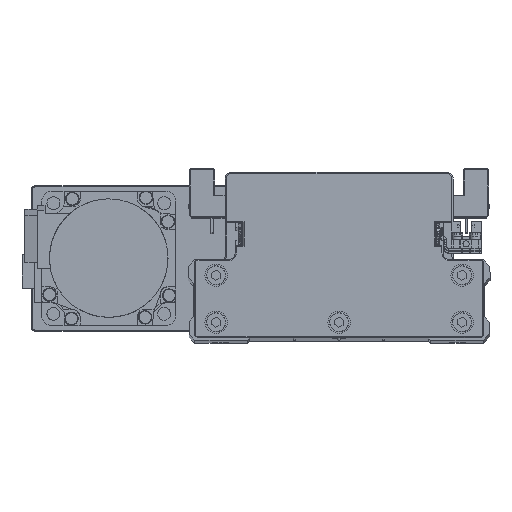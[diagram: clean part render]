
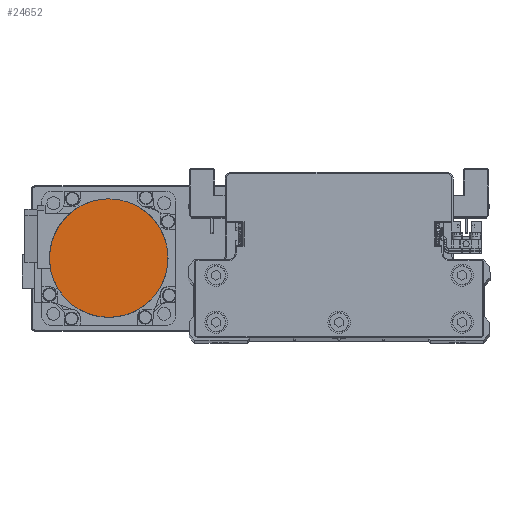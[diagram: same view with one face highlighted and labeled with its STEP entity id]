
A CAD part, top view. The second image highlights one B-rep face of the part: STEP entity #24652.
In plain terms, the highlighted planar face has unit normal (0, 0, 1) as drawn and (0, 0, -1) by its records, which use the part's own axes.
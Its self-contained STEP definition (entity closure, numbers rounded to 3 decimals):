
#22 = CARTESIAN_POINT ( 'NONE',  ( 8.539, -25.147, -109.7 ) ) ;
#34 = EDGE_CURVE ( 'NONE', #26519, #19195, #30029, .T. ) ;
#216 = CARTESIAN_POINT ( 'NONE',  ( 26.5, 0., -109.7 ) ) ;
#1491 = CARTESIAN_POINT ( 'NONE',  ( 17.512, 19.965, -109.7 ) ) ;
#1570 = FACE_OUTER_BOUND ( 'NONE', #2157, .T. ) ;
#1697 = CARTESIAN_POINT ( 'NONE',  ( -13.28, 22.998, -109.7 ) ) ;
#2157 = EDGE_LOOP ( 'NONE', ( #7623, #12205 ) ) ;
#2898 = CARTESIAN_POINT ( 'NONE',  ( -25.147, -8.539, -109.7 ) ) ;
#3110 = CARTESIAN_POINT ( 'NONE',  ( 1.734, -26.5, -109.7 ) ) ;
#3307 = CARTESIAN_POINT ( 'NONE',  ( 25.652, -6.871, -109.7 ) ) ;
#4585 = CARTESIAN_POINT ( 'NONE',  ( 22.998, 13.28, -109.7 ) ) ;
#4778 = CARTESIAN_POINT ( 'NONE',  ( -6.871, 25.652, -109.7 ) ) ;
#4981 = CARTESIAN_POINT ( 'NONE',  ( -26.5, 1.734, -109.7 ) ) ;
#5992 = CARTESIAN_POINT ( 'NONE',  ( -26.5, -1.734, -109.7 ) ) ;
#6198 = CARTESIAN_POINT ( 'NONE',  ( -6.871, -25.652, -109.7 ) ) ;
#6409 = CARTESIAN_POINT ( 'NONE',  ( 22.998, -13.28, -109.7 ) ) ;
#6653 = CARTESIAN_POINT ( 'NONE',  ( -26.5, 0., -109.7 ) ) ;
#7623 = ORIENTED_EDGE ( 'NONE', *, *, #29674, .F. ) ;
#7672 = CARTESIAN_POINT ( 'NONE',  ( 25.652, 6.871, -109.7 ) ) ;
#7871 = CARTESIAN_POINT ( 'NONE',  ( 1.734, 26.5, -109.7 ) ) ;
#8065 = CARTESIAN_POINT ( 'NONE',  ( -25.147, 8.539, -109.7 ) ) ;
#9280 = CARTESIAN_POINT ( 'NONE',  ( -13.28, -22.998, -109.7 ) ) ;
#9485 = CARTESIAN_POINT ( 'NONE',  ( 17.512, -19.965, -109.7 ) ) ;
#10749 = CARTESIAN_POINT ( 'NONE',  ( 26.5, 0., -109.7 ) ) ;
#10961 = CARTESIAN_POINT ( 'NONE',  ( 8.539, 25.147, -109.7 ) ) ;
#11032 = DIRECTION ( 'NONE',  ( 1., 0., 0. ) ) ;
#11163 = CARTESIAN_POINT ( 'NONE',  ( -21.07, 16.165, -109.7 ) ) ;
#12205 = ORIENTED_EDGE ( 'NONE', *, *, #34, .F. ) ;
#12360 = CARTESIAN_POINT ( 'NONE',  ( -19.965, -17.512, -109.7 ) ) ;
#12560 = CARTESIAN_POINT ( 'NONE',  ( 11.744, -23.819, -109.7 ) ) ;
#14031 = CARTESIAN_POINT ( 'NONE',  ( 16.165, 21.07, -109.7 ) ) ;
#14106 = PLANE ( 'NONE',  #29103 ) ;
#14246 = CARTESIAN_POINT ( 'NONE',  ( -16.165, 21.07, -109.7 ) ) ;
#14368 = B_SPLINE_CURVE_WITH_KNOTS ( 'NONE', 3,
 ( #10749, #23296, #35846, #7672, #20223, #32755, #4585, #17111, #29643, #1491, #14031, #26558, #39104, #10961, #23509, #36054, #7871, #20422, #32953, #4778, #17317, #29840, #1697, #14246, #26774, #39315, #11163, #23705, #36254, #8065, #20614, #33150, #4981, #17530 ),
 .UNSPECIFIED., .F., .F.,
 ( 4, 2, 2, 2, 2, 2, 2, 2, 2, 2, 2, 2, 2, 2, 2, 2, 4 ),
 ( 0., 0.062, 0.125, 0.187, 0.25, 0.312, 0.375, 0.437, 0.5, 0.562, 0.625, 0.687, 0.75, 0.813, 0.875, 0.938, 1. ),
 .UNSPECIFIED. ) ;
#15431 = CARTESIAN_POINT ( 'NONE',  ( -23.819, -11.744, -109.7 ) ) ;
#15646 = CARTESIAN_POINT ( 'NONE',  ( 3.469, -26.329, -109.7 ) ) ;
#15851 = CARTESIAN_POINT ( 'NONE',  ( 26.329, -3.469, -109.7 ) ) ;
#16289 = CARTESIAN_POINT ( 'NONE',  ( 26.5, 0., -109.7 ) ) ;
#17111 = CARTESIAN_POINT ( 'NONE',  ( 21.07, 16.165, -109.7 ) ) ;
#17317 = CARTESIAN_POINT ( 'NONE',  ( -8.539, 25.147, -109.7 ) ) ;
#17530 = CARTESIAN_POINT ( 'NONE',  ( -26.5, 0., -109.7 ) ) ;
#18526 = CARTESIAN_POINT ( 'NONE',  ( -26.329, -3.469, -109.7 ) ) ;
#18729 = CARTESIAN_POINT ( 'NONE',  ( -3.469, -26.329, -109.7 ) ) ;
#18951 = CARTESIAN_POINT ( 'NONE',  ( 23.819, -11.744, -109.7 ) ) ;
#19195 = VERTEX_POINT ( 'NONE', #16289 ) ;
#20223 = CARTESIAN_POINT ( 'NONE',  ( 25.147, 8.539, -109.7 ) ) ;
#20422 = CARTESIAN_POINT ( 'NONE',  ( -1.734, 26.5, -109.7 ) ) ;
#20614 = CARTESIAN_POINT ( 'NONE',  ( -25.652, 6.871, -109.7 ) ) ;
#21821 = CARTESIAN_POINT ( 'NONE',  ( -11.744, -23.819, -109.7 ) ) ;
#22024 = CARTESIAN_POINT ( 'NONE',  ( 19.965, -17.512, -109.7 ) ) ;
#23296 = CARTESIAN_POINT ( 'NONE',  ( 26.5, 1.734, -109.7 ) ) ;
#23509 = CARTESIAN_POINT ( 'NONE',  ( 6.871, 25.652, -109.7 ) ) ;
#23705 = CARTESIAN_POINT ( 'NONE',  ( -22.998, 13.28, -109.7 ) ) ;
#24652 = ADVANCED_FACE ( 'NONE', ( #1570 ), #14106, .F. ) ;
#24690 = CARTESIAN_POINT ( 'NONE',  ( -26.5, 0., -109.7 ) ) ;
#24897 = CARTESIAN_POINT ( 'NONE',  ( -17.512, -19.965, -109.7 ) ) ;
#25096 = CARTESIAN_POINT ( 'NONE',  ( 13.28, -22.998, -109.7 ) ) ;
#26519 = VERTEX_POINT ( 'NONE', #6653 ) ;
#26558 = CARTESIAN_POINT ( 'NONE',  ( 13.28, 22.998, -109.7 ) ) ;
#26635 = CARTESIAN_POINT ( 'NONE',  ( 0., 0., -109.7 ) ) ;
#26774 = CARTESIAN_POINT ( 'NONE',  ( -17.512, 19.965, -109.7 ) ) ;
#27973 = CARTESIAN_POINT ( 'NONE',  ( -22.998, -13.28, -109.7 ) ) ;
#28174 = CARTESIAN_POINT ( 'NONE',  ( 6.871, -25.652, -109.7 ) ) ;
#28376 = CARTESIAN_POINT ( 'NONE',  ( 26.5, -1.734, -109.7 ) ) ;
#29103 = AXIS2_PLACEMENT_3D ( 'NONE', #26635, #39179, #11032 ) ;
#29643 = CARTESIAN_POINT ( 'NONE',  ( 19.965, 17.512, -109.7 ) ) ;
#29674 = EDGE_CURVE ( 'NONE', #19195, #26519, #14368, .T. ) ;
#29840 = CARTESIAN_POINT ( 'NONE',  ( -11.744, 23.819, -109.7 ) ) ;
#30029 = B_SPLINE_CURVE_WITH_KNOTS ( 'NONE', 3,
 ( #24690, #5992, #18526, #31061, #2898, #15431, #27973, #40510, #12360, #24897, #37444, #9280, #21821, #34360, #6198, #18729, #31276, #3110, #15646, #28174, #22, #12560, #25096, #37652, #9485, #22024, #34572, #6409, #18951, #31484, #3307, #15851, #28376, #216 ),
 .UNSPECIFIED., .F., .F.,
 ( 4, 2, 2, 2, 2, 2, 2, 2, 2, 2, 2, 2, 2, 2, 2, 2, 4 ),
 ( 0., 0.063, 0.125, 0.188, 0.25, 0.312, 0.375, 0.437, 0.5, 0.562, 0.625, 0.687, 0.75, 0.813, 0.875, 0.938, 1. ),
 .UNSPECIFIED. ) ;
#31061 = CARTESIAN_POINT ( 'NONE',  ( -25.652, -6.871, -109.7 ) ) ;
#31276 = CARTESIAN_POINT ( 'NONE',  ( -1.734, -26.5, -109.7 ) ) ;
#31484 = CARTESIAN_POINT ( 'NONE',  ( 25.147, -8.539, -109.7 ) ) ;
#32755 = CARTESIAN_POINT ( 'NONE',  ( 23.819, 11.744, -109.7 ) ) ;
#32953 = CARTESIAN_POINT ( 'NONE',  ( -3.469, 26.329, -109.7 ) ) ;
#33150 = CARTESIAN_POINT ( 'NONE',  ( -26.329, 3.469, -109.7 ) ) ;
#34360 = CARTESIAN_POINT ( 'NONE',  ( -8.539, -25.147, -109.7 ) ) ;
#34572 = CARTESIAN_POINT ( 'NONE',  ( 21.07, -16.165, -109.7 ) ) ;
#35846 = CARTESIAN_POINT ( 'NONE',  ( 26.329, 3.469, -109.7 ) ) ;
#36054 = CARTESIAN_POINT ( 'NONE',  ( 3.469, 26.329, -109.7 ) ) ;
#36254 = CARTESIAN_POINT ( 'NONE',  ( -23.819, 11.744, -109.7 ) ) ;
#37444 = CARTESIAN_POINT ( 'NONE',  ( -16.165, -21.07, -109.7 ) ) ;
#37652 = CARTESIAN_POINT ( 'NONE',  ( 16.165, -21.07, -109.7 ) ) ;
#39104 = CARTESIAN_POINT ( 'NONE',  ( 11.744, 23.819, -109.7 ) ) ;
#39179 = DIRECTION ( 'NONE',  ( 0., 0., 1. ) ) ;
#39315 = CARTESIAN_POINT ( 'NONE',  ( -19.965, 17.512, -109.7 ) ) ;
#40510 = CARTESIAN_POINT ( 'NONE',  ( -21.07, -16.165, -109.7 ) ) ;
